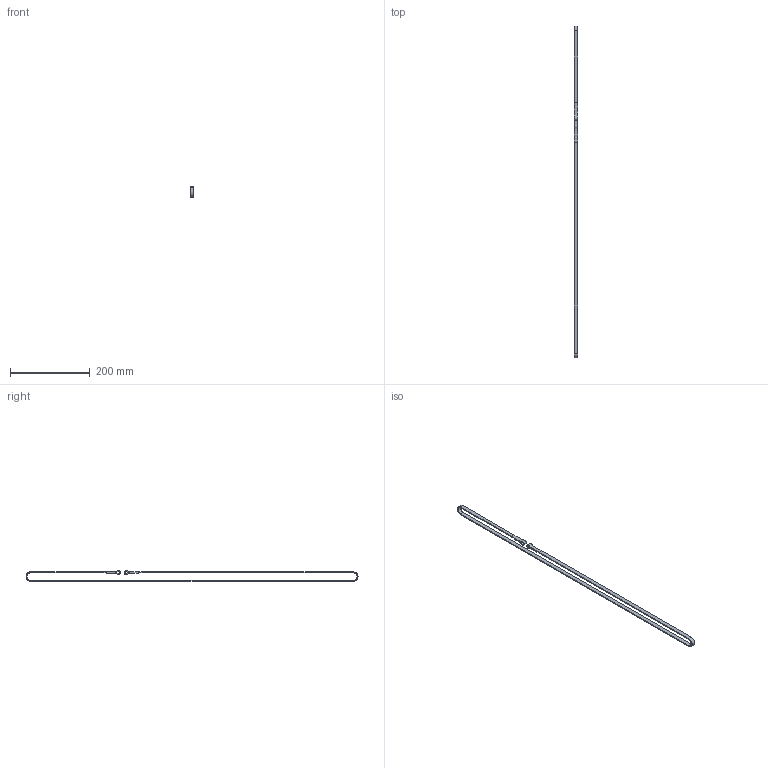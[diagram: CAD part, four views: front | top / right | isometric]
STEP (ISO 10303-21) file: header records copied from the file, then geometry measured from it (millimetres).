
FILE_DESCRIPTION(/* description */ (''),/* implementation_level */ '2;1');
FILE_NAME(/* name */ '6.y-drive#6.16#la-gtb-1',/* time_stamp */ '2014-12-01T20:17:14+01:00',/* author */ (''),/* organization */ (''),/* preprocessor_version */ 'ST-DEVELOPER v14',/* originating_system */ '',/* authorisation */ '');
FILE_SCHEMA (('AUTOMOTIVE_DESIGN'));
Length unit declared in the file: millimetre
Products named in the file (1): Document
Bounding box: 9 x 833.96 x 27 mm (x, y, z)
Surface area: 39448 mm2 (no closed solid volume)
Topology: 0 solids, 1 shells, 34 faces, 73 edges, 40 vertices
Faces by surface type: plane 18, bspline 16
Entity records: 2475 total; most frequent: CARTESIAN_POINT 1498, B_SPLINE_CURVE_WITH_KNOTS 161, ORIENTED_EDGE 144, PCURVE 144, DEFINITIONAL_REPRESENTATION 144, SURFACE_CURVE 73, EDGE_CURVE 73, VERTEX_POINT 40
